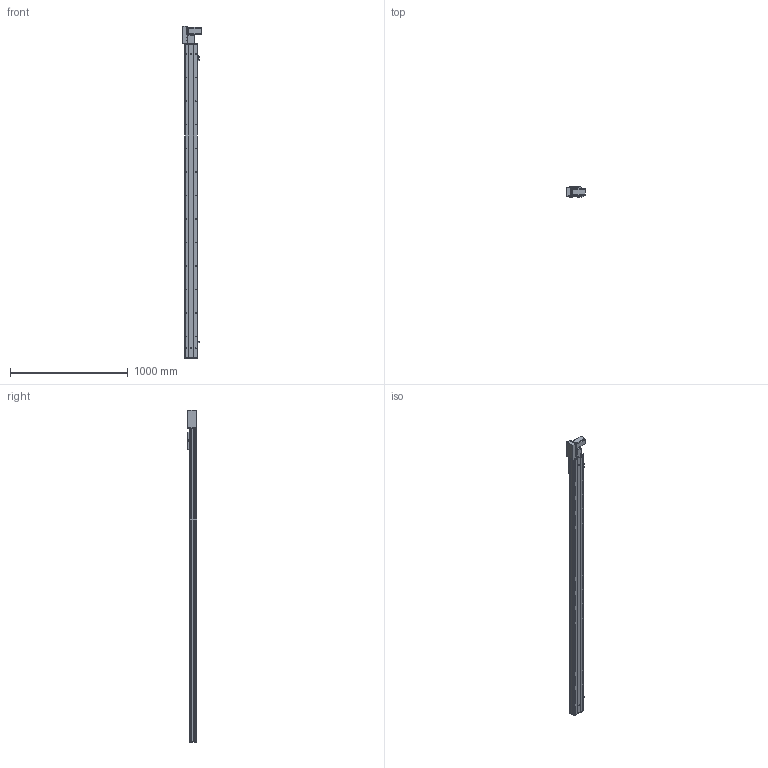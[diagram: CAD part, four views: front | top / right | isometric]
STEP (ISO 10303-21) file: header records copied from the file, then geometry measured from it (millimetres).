
FILE_DESCRIPTION (( 'STEP AP203' ), '1' );
FILE_NAME ('Y10CB-D90-S2400-BL-P400W.STEP', '2020-02-15T08:36:35', ( '微软用户' ), ( '微软中国' ), 'SwSTEP 2.0', 'SolidWorks 2017', '' );
FILE_SCHEMA (( 'CONFIG_CONTROL_DESIGN' ));
Length unit declared in the file: millimetre
Products named in the file (18): Y10CB-D90-S2400-BL-P400W; Y俋欶BR----; 0Cb-俋欶---; 10CB-詩湍-; Y10B-々湍喘謫眊楊擘啣--; Y10CB- 掛极耜裔啣-毀---; Y10B--々湍喘謫眊--666; Y10C---詩湍揤啣; Y10B-耜蚾蟀諉啣----; 10CB9-掛极; 0B-萇儂楊擘啣; 10CB-耜裔; san松下电机400不带刹车----; Y135C-陔俋离換覜結え-; 0B-源倛裔啣; Y100-135俋离換覜ん--; 0B-埴倛裔啣; 0CB-雄赽釱---
Assembly tree (21 placements, depth 2):
  Y10CB-D90-S2400-BL-P400W
    0CB-雄赽釱---
    0Cb-俋欶---
    Y10B-々湍喘謫眊楊擘啣--
    Y10B--々湍喘謫眊--666
    Y10B-耜蚾蟀諉啣----
    0B-萇儂楊擘啣
    san松下电机400不带刹车----
    0B-源倛裔啣
    0B-埴倛裔啣
    Y俋欶BR----
    10CB-詩湍-
    Y10CB- 掛极耜裔啣-毀---  x2
    Y10C---詩湍揤啣  x2
    10CB9-掛极
    10CB-耜裔
    Y135C-陔俋离換覜結え-
    Y100-135俋离換覜ん--  x3
Bounding box: 157.5 x 80.5 x 2822.5 mm (x, y, z)
Volume: 5579687.9 mm3; surface area: 2645203.4 mm2
Topology: 21 solids, 21 shells, 1074 faces, 2923 edges, 1898 vertices
Faces by surface type: cylinder 557, plane 493, cone 24
Entity records: 34404 total; most frequent: CARTESIAN_POINT 6505, DIRECTION 5470, ORIENTED_EDGE 5316, EDGE_CURVE 2658, AXIS2_PLACEMENT_3D 1953, VERTEX_POINT 1724, VECTOR 1564, LINE 1564
